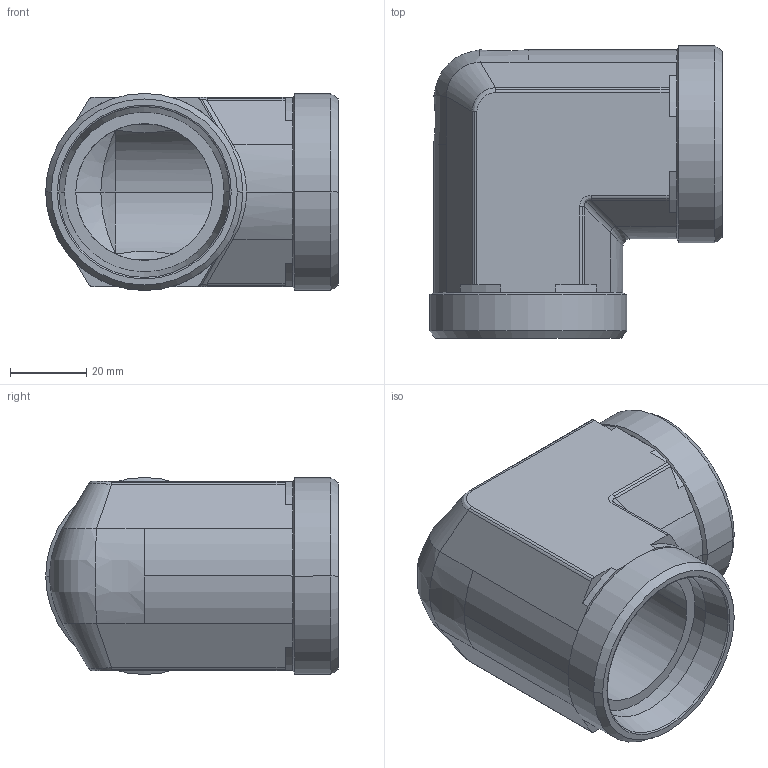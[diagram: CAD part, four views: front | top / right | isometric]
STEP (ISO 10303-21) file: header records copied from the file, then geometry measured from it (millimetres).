
FILE_DESCRIPTION((''),'2;1');
FILE_NAME('103813.stp','2007-10-31T11:52:54',(''),(''),'AutoCAD STEP 2000i','AutoCAD 2000i',', , ');
FILE_SCHEMA(('CONFIG_CONTROL_DESIGN'));
Length unit declared in the file: millimetre
Products named in the file (2): 103813.0; 3090#0
Assembly tree (1 placements, depth 2):
  103813.0
    3090#0
Bounding box: 76.91 x 76.91 x 51.82 mm (x, y, z)
Volume: 98521.1 mm3; surface area: 30405.7 mm2
Topology: 1 solids, 1 shells, 120 faces, 282 edges, 166 vertices
Faces by surface type: cylinder 52, plane 34, cone 20, bspline 14
Entity records: 4416 total; most frequent: CARTESIAN_POINT 1537, DIRECTION 621, ORIENTED_EDGE 564, EDGE_CURVE 282, AXIS2_PLACEMENT_3D 250, VERTEX_POINT 166, CIRCLE 124, EDGE_LOOP 124
